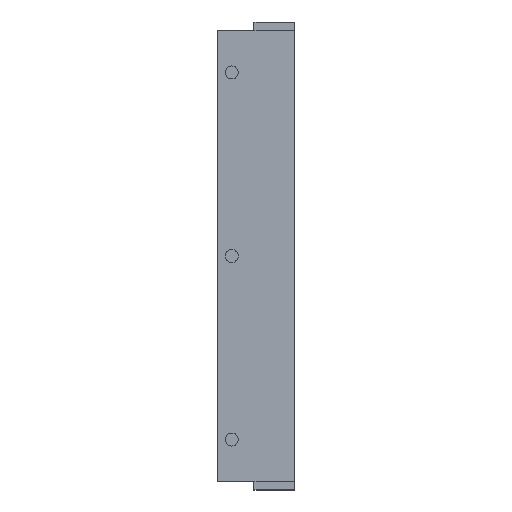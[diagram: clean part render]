
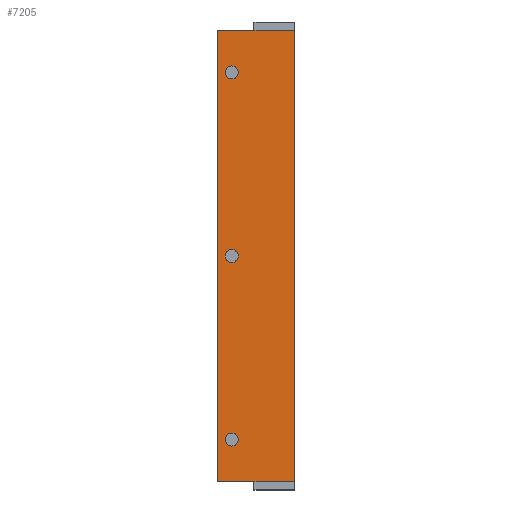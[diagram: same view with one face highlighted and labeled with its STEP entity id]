
A CAD part, left-side view. The second image highlights one B-rep face of the part: STEP entity #7205.
In plain terms, the highlighted planar face has unit normal (-1, 0, 0).
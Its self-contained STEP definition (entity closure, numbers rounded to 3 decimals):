
#72 = EDGE_LOOP ( 'NONE', ( #1984, #1476 ) ) ;
#122 = CIRCLE ( 'NONE', #5999, 1.6 ) ;
#208 = LINE ( 'NONE', #7793, #6149 ) ;
#251 = EDGE_CURVE ( 'NONE', #2843, #456, #5892, .T. ) ;
#456 = VERTEX_POINT ( 'NONE', #780 ) ;
#541 = CARTESIAN_POINT ( 'NONE',  ( 24060.016, 13186.207, -4112.746 ) ) ;
#780 = CARTESIAN_POINT ( 'NONE',  ( 24060.016, 13195.207, -4112.746 ) ) ;
#845 = EDGE_CURVE ( 'NONE', #2843, #7407, #7514, .T. ) ;
#849 = VERTEX_POINT ( 'NONE', #4020 ) ;
#876 = VECTOR ( 'NONE', #5771, 1000. ) ;
#1035 = VECTOR ( 'NONE', #4141, 1000. ) ;
#1119 = CARTESIAN_POINT ( 'NONE',  ( 24060.016, 13191.707, -4167.146 ) ) ;
#1126 = ORIENTED_EDGE ( 'NONE', *, *, #845, .T. ) ;
#1182 = CIRCLE ( 'NONE', #4734, 1.6 ) ;
#1458 = EDGE_CURVE ( 'NONE', #7407, #1617, #4579, .T. ) ;
#1476 = ORIENTED_EDGE ( 'NONE', *, *, #1809, .T. ) ;
#1498 = EDGE_CURVE ( 'NONE', #4018, #2676, #6383, .T. ) ;
#1617 = VERTEX_POINT ( 'NONE', #4568 ) ;
#1627 = VERTEX_POINT ( 'NONE', #1119 ) ;
#1750 = CARTESIAN_POINT ( 'NONE',  ( 24060.016, 13191.707, -4168.746 ) ) ;
#1766 = DIRECTION ( 'NONE',  ( 0., 0., -1. ) ) ;
#1809 = EDGE_CURVE ( 'NONE', #7333, #2049, #1182, .T. ) ;
#1838 = CARTESIAN_POINT ( 'NONE',  ( 24060.016, 13191.707, -4212.646 ) ) ;
#1936 = AXIS2_PLACEMENT_3D ( 'NONE', #5041, #4179, #3295 ) ;
#1984 = ORIENTED_EDGE ( 'NONE', *, *, #5836, .T. ) ;
#2049 = VERTEX_POINT ( 'NONE', #7591 ) ;
#2197 = DIRECTION ( 'NONE',  ( 0., 0., 1. ) ) ;
#2202 = AXIS2_PLACEMENT_3D ( 'NONE', #6353, #5268, #4387 ) ;
#2257 = CARTESIAN_POINT ( 'NONE',  ( 24060.016, 13195.207, -4224.746 ) ) ;
#2528 = CIRCLE ( 'NONE', #4782, 1.6 ) ;
#2589 = EDGE_LOOP ( 'NONE', ( #7038, #6774 ) ) ;
#2627 = DIRECTION ( 'NONE',  ( 1., 0., 0. ) ) ;
#2676 = VERTEX_POINT ( 'NONE', #4756 ) ;
#2733 = EDGE_CURVE ( 'NONE', #849, #1627, #2528, .T. ) ;
#2843 = VERTEX_POINT ( 'NONE', #2257 ) ;
#2846 = VERTEX_POINT ( 'NONE', #541 ) ;
#2851 = DIRECTION ( 'NONE',  ( 0., -1., 0. ) ) ;
#2978 = DIRECTION ( 'NONE',  ( 0., 0., -1. ) ) ;
#3059 = DIRECTION ( 'NONE',  ( -1., 0., 0. ) ) ;
#3295 = DIRECTION ( 'NONE',  ( 0., 0., -1. ) ) ;
#3428 = EDGE_LOOP ( 'NONE', ( #8042, #6836 ) ) ;
#3437 = DIRECTION ( 'NONE',  ( 0., 1., 0. ) ) ;
#3492 = CARTESIAN_POINT ( 'NONE',  ( 24060.016, 13191.707, -4123.246 ) ) ;
#3569 = ORIENTED_EDGE ( 'NONE', *, *, #5280, .T. ) ;
#3605 = CARTESIAN_POINT ( 'NONE',  ( 24060.016, 13186.207, -4224.746 ) ) ;
#3706 = CARTESIAN_POINT ( 'NONE',  ( 24060.016, 13185.707, -4224.746 ) ) ;
#3750 = EDGE_CURVE ( 'NONE', #1627, #849, #7811, .T. ) ;
#3846 = DIRECTION ( 'NONE',  ( 1., 0., 0. ) ) ;
#3870 = CARTESIAN_POINT ( 'NONE',  ( 24060.016, 13191.707, -4124.846 ) ) ;
#3927 = CARTESIAN_POINT ( 'NONE',  ( 24060.016, 13185.707, -4168.746 ) ) ;
#4018 = VERTEX_POINT ( 'NONE', #3870 ) ;
#4020 = CARTESIAN_POINT ( 'NONE',  ( 24060.016, 13191.707, -4170.346 ) ) ;
#4141 = DIRECTION ( 'NONE',  ( 0., 0., 1. ) ) ;
#4179 = DIRECTION ( 'NONE',  ( 1., 0., 0. ) ) ;
#4211 = VECTOR ( 'NONE', #4820, 1000. ) ;
#4307 = CARTESIAN_POINT ( 'NONE',  ( 24060.016, 13185.707, -4112.746 ) ) ;
#4387 = DIRECTION ( 'NONE',  ( 0., 0., -1. ) ) ;
#4568 = CARTESIAN_POINT ( 'NONE',  ( 24060.016, 13176.207, -4224.746 ) ) ;
#4579 = LINE ( 'NONE', #3706, #8020 ) ;
#4701 = FACE_OUTER_BOUND ( 'NONE', #5244, .T. ) ;
#4712 = CARTESIAN_POINT ( 'NONE',  ( 24060.016, 13191.707, -4214.246 ) ) ;
#4734 = AXIS2_PLACEMENT_3D ( 'NONE', #7696, #6841, #5965 ) ;
#4756 = CARTESIAN_POINT ( 'NONE',  ( 24060.016, 13191.707, -4121.646 ) ) ;
#4782 = AXIS2_PLACEMENT_3D ( 'NONE', #1750, #6773, #5897 ) ;
#4798 = PLANE ( 'NONE',  #7781 ) ;
#4804 = EDGE_CURVE ( 'NONE', #2676, #4018, #5254, .T. ) ;
#4820 = DIRECTION ( 'NONE',  ( 0., 1., 0. ) ) ;
#5005 = CARTESIAN_POINT ( 'NONE',  ( 24060.016, 13195.207, -4169.371 ) ) ;
#5041 = CARTESIAN_POINT ( 'NONE',  ( 24060.016, 13191.707, -4123.246 ) ) ;
#5116 = EDGE_CURVE ( 'NONE', #1617, #8237, #208, .T. ) ;
#5189 = LINE ( 'NONE', #4307, #6316 ) ;
#5244 = EDGE_LOOP ( 'NONE', ( #3569, #6825, #1126, #7058, #6345, #7202 ) ) ;
#5254 = CIRCLE ( 'NONE', #7390, 1.6 ) ;
#5268 = DIRECTION ( 'NONE',  ( 1., 0., 0. ) ) ;
#5280 = EDGE_CURVE ( 'NONE', #2846, #456, #6574, .T. ) ;
#5374 = FACE_BOUND ( 'NONE', #3428, .T. ) ;
#5694 = CARTESIAN_POINT ( 'NONE',  ( 24060.016, 13185.707, -4112.746 ) ) ;
#5771 = DIRECTION ( 'NONE',  ( 0., -1., 0. ) ) ;
#5836 = EDGE_CURVE ( 'NONE', #2049, #7333, #122, .T. ) ;
#5892 = LINE ( 'NONE', #5005, #1035 ) ;
#5897 = DIRECTION ( 'NONE',  ( 0., 0., -1. ) ) ;
#5965 = DIRECTION ( 'NONE',  ( 0., 0., -1. ) ) ;
#5999 = AXIS2_PLACEMENT_3D ( 'NONE', #4712, #3846, #2978 ) ;
#6149 = VECTOR ( 'NONE', #6936, 1000. ) ;
#6316 = VECTOR ( 'NONE', #3437, 1000. ) ;
#6345 = ORIENTED_EDGE ( 'NONE', *, *, #5116, .T. ) ;
#6353 = CARTESIAN_POINT ( 'NONE',  ( 24060.016, 13191.707, -4168.746 ) ) ;
#6383 = CIRCLE ( 'NONE', #1936, 1.6 ) ;
#6574 = LINE ( 'NONE', #5694, #4211 ) ;
#6648 = CARTESIAN_POINT ( 'NONE',  ( 24060.016, 13185.707, -4224.746 ) ) ;
#6700 = FACE_BOUND ( 'NONE', #2589, .T. ) ;
#6773 = DIRECTION ( 'NONE',  ( 1., 0., 0. ) ) ;
#6774 = ORIENTED_EDGE ( 'NONE', *, *, #4804, .T. ) ;
#6825 = ORIENTED_EDGE ( 'NONE', *, *, #251, .F. ) ;
#6836 = ORIENTED_EDGE ( 'NONE', *, *, #3750, .T. ) ;
#6841 = DIRECTION ( 'NONE',  ( 1., 0., 0. ) ) ;
#6936 = DIRECTION ( 'NONE',  ( 0., 0., 1. ) ) ;
#7038 = ORIENTED_EDGE ( 'NONE', *, *, #1498, .T. ) ;
#7058 = ORIENTED_EDGE ( 'NONE', *, *, #1458, .T. ) ;
#7202 = ORIENTED_EDGE ( 'NONE', *, *, #8328, .T. ) ;
#7205 = ADVANCED_FACE ( 'NONE', ( #4701, #6700, #5374, #7355 ), #4798, .T. ) ;
#7333 = VERTEX_POINT ( 'NONE', #1838 ) ;
#7355 = FACE_BOUND ( 'NONE', #72, .T. ) ;
#7390 = AXIS2_PLACEMENT_3D ( 'NONE', #3492, #2627, #1766 ) ;
#7407 = VERTEX_POINT ( 'NONE', #3605 ) ;
#7514 = LINE ( 'NONE', #6648, #876 ) ;
#7544 = CARTESIAN_POINT ( 'NONE',  ( 24060.016, 13176.207, -4112.746 ) ) ;
#7591 = CARTESIAN_POINT ( 'NONE',  ( 24060.016, 13191.707, -4215.846 ) ) ;
#7696 = CARTESIAN_POINT ( 'NONE',  ( 24060.016, 13191.707, -4214.246 ) ) ;
#7781 = AXIS2_PLACEMENT_3D ( 'NONE', #3927, #3059, #2197 ) ;
#7793 = CARTESIAN_POINT ( 'NONE',  ( 24060.016, 13176.207, -4168.746 ) ) ;
#7811 = CIRCLE ( 'NONE', #2202, 1.6 ) ;
#8020 = VECTOR ( 'NONE', #2851, 1000. ) ;
#8042 = ORIENTED_EDGE ( 'NONE', *, *, #2733, .T. ) ;
#8237 = VERTEX_POINT ( 'NONE', #7544 ) ;
#8328 = EDGE_CURVE ( 'NONE', #8237, #2846, #5189, .T. ) ;
